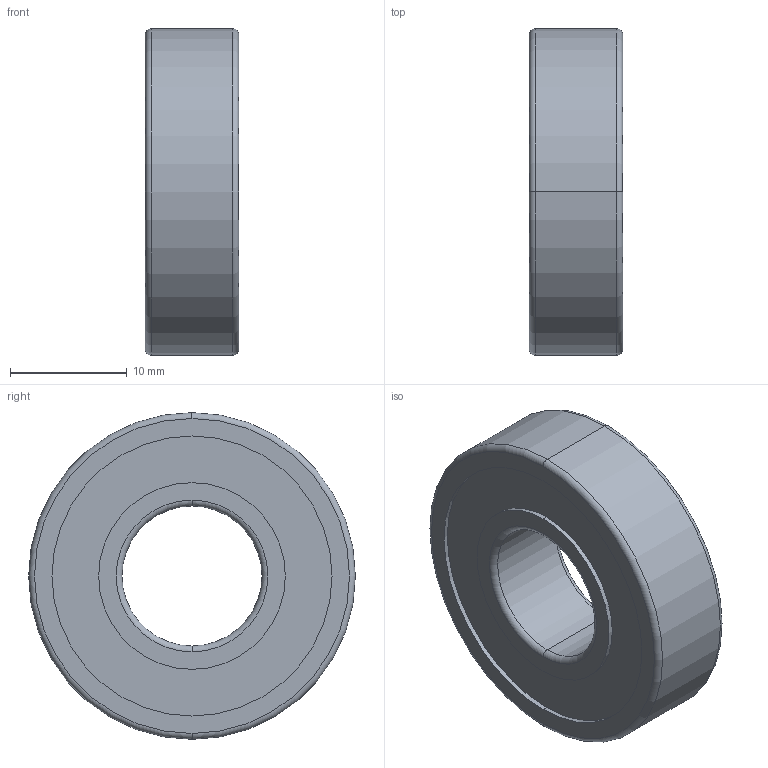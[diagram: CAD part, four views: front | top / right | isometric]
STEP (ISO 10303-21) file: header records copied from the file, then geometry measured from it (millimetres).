
FILE_DESCRIPTION (( 'STEP AP203' ), '1' );
FILE_NAME ('084.802.036.STEP', '2013-01-29T10:58:33', ( 'Alusic' ), ( 'Alusic' ), 'SwSTEP 2.0', 'SolidWorks 2011', '' );
FILE_SCHEMA (( 'CONFIG_CONTROL_DESIGN' ));
Length unit declared in the file: millimetre
Products named in the file (1): 084.802.036
Bounding box: 8 x 28 x 28 mm (x, y, z)
Volume: 3323.1 mm3; surface area: 4073.3 mm2
Topology: 2 solids, 3 shells, 46 faces, 92 edges, 54 vertices
Faces by surface type: cylinder 20, torus 18, plane 8
Entity records: 1297 total; most frequent: DIRECTION 258, CARTESIAN_POINT 193, ORIENTED_EDGE 184, AXIS2_PLACEMENT_3D 119, EDGE_CURVE 92, CIRCLE 72, EDGE_LOOP 54, VERTEX_POINT 54
